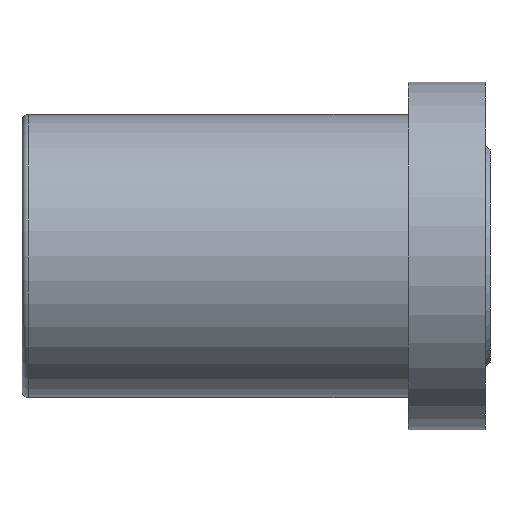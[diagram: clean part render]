
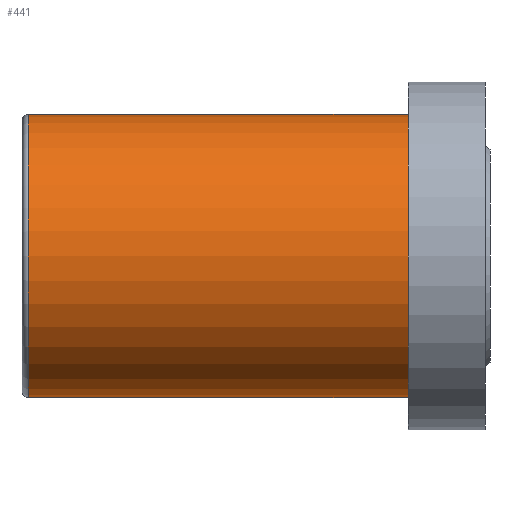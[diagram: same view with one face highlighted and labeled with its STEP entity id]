
A CAD part, left-side view. The second image highlights one B-rep face of the part: STEP entity #441.
In plain terms, the highlighted cylindrical face has radius 11 mm (diameter 22 mm), a partial arc.
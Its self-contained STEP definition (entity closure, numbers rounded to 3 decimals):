
#10 = CARTESIAN_POINT ( 'NONE',  ( 0., 0., 11. ) ) ;
#43 = AXIS2_PLACEMENT_3D ( 'NONE', #260, #249, #186 ) ;
#51 = CARTESIAN_POINT ( 'NONE',  ( 0., 0., 11. ) ) ;
#54 = CARTESIAN_POINT ( 'NONE',  ( 0., 0., 0. ) ) ;
#55 = ORIENTED_EDGE ( 'NONE', *, *, #291, .F. ) ;
#57 = DIRECTION ( 'NONE',  ( 0., -1., 0. ) ) ;
#72 = LINE ( 'NONE', #114, #362 ) ;
#102 = VERTEX_POINT ( 'NONE', #382 ) ;
#114 = CARTESIAN_POINT ( 'NONE',  ( 0., 0., -11. ) ) ;
#119 = EDGE_LOOP ( 'NONE', ( #274, #428, #206, #55 ) ) ;
#132 = VERTEX_POINT ( 'NONE', #311 ) ;
#137 = CARTESIAN_POINT ( 'NONE',  ( 0., 29.5, -11. ) ) ;
#160 = DIRECTION ( 'NONE',  ( 0., -1., 0. ) ) ;
#162 = CIRCLE ( 'NONE', #169, 11. ) ;
#167 = LINE ( 'NONE', #51, #357 ) ;
#169 = AXIS2_PLACEMENT_3D ( 'NONE', #54, #57, #465 ) ;
#177 = CYLINDRICAL_SURFACE ( 'NONE', #43, 11. ) ;
#186 = DIRECTION ( 'NONE',  ( 0., 0., -1. ) ) ;
#206 = ORIENTED_EDGE ( 'NONE', *, *, #243, .T. ) ;
#223 = EDGE_CURVE ( 'NONE', #132, #365, #470, .T. ) ;
#243 = EDGE_CURVE ( 'NONE', #365, #102, #72, .T. ) ;
#249 = DIRECTION ( 'NONE',  ( 0., -1., 0. ) ) ;
#260 = CARTESIAN_POINT ( 'NONE',  ( 0., 0., 0. ) ) ;
#274 = ORIENTED_EDGE ( 'NONE', *, *, #495, .F. ) ;
#291 = EDGE_CURVE ( 'NONE', #355, #102, #162, .T. ) ;
#305 = CARTESIAN_POINT ( 'NONE',  ( 0., 29.5, 0. ) ) ;
#311 = CARTESIAN_POINT ( 'NONE',  ( 0., 29.5, 11. ) ) ;
#355 = VERTEX_POINT ( 'NONE', #10 ) ;
#357 = VECTOR ( 'NONE', #395, 1000. ) ;
#362 = VECTOR ( 'NONE', #160, 1000. ) ;
#365 = VERTEX_POINT ( 'NONE', #137 ) ;
#382 = CARTESIAN_POINT ( 'NONE',  ( 0., 0., -11. ) ) ;
#393 = FACE_OUTER_BOUND ( 'NONE', #119, .T. ) ;
#395 = DIRECTION ( 'NONE',  ( 0., -1., 0. ) ) ;
#410 = DIRECTION ( 'NONE',  ( 0., 0., -1. ) ) ;
#428 = ORIENTED_EDGE ( 'NONE', *, *, #223, .T. ) ;
#441 = ADVANCED_FACE ( 'NONE', ( #393 ), #177, .T. ) ;
#443 = AXIS2_PLACEMENT_3D ( 'NONE', #305, #484, #410 ) ;
#465 = DIRECTION ( 'NONE',  ( 0., 0., -1. ) ) ;
#470 = CIRCLE ( 'NONE', #443, 11. ) ;
#484 = DIRECTION ( 'NONE',  ( 0., -1., 0. ) ) ;
#495 = EDGE_CURVE ( 'NONE', #132, #355, #167, .T. ) ;
